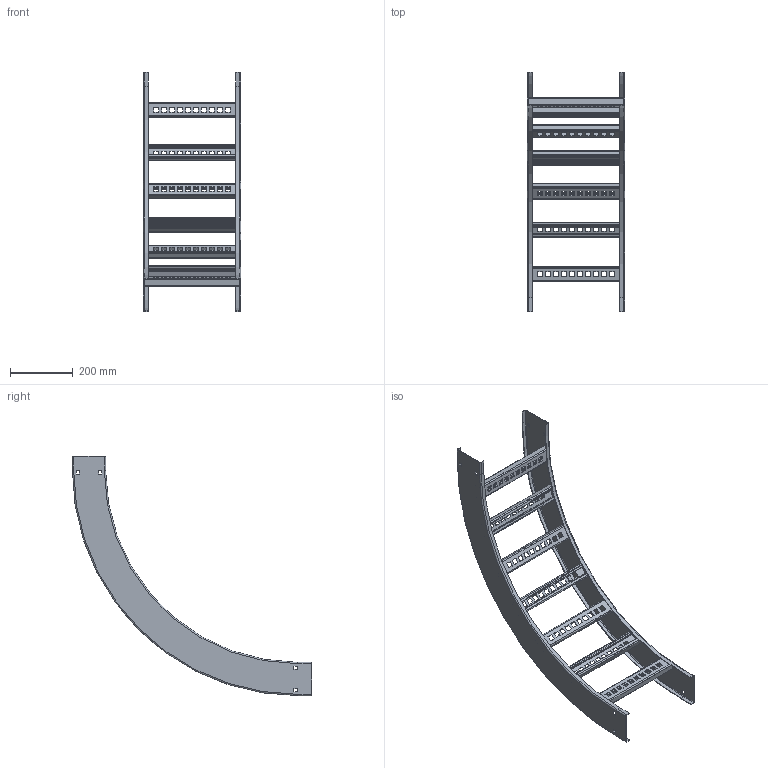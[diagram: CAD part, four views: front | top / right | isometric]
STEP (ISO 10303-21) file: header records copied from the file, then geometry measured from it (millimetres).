
FILE_DESCRIPTION((''),'2;1');
FILE_NAME('AUF412VVO9024_ASM','2010-02-01T',('erouzier'),(''),'PRO/ENGINEER BY PARAMETRIC TECHNOLOGY CORPORATION, 2008510','PRO/ENGINEER BY PARAMETRIC TECHNOLOGY CORPORATION, 2008510','');
FILE_SCHEMA(('CONFIG_CONTROL_DESIGN'));
Length unit declared in the file: inch
Products named in the file (3): CDS001416_4_90_24; CDS002159L12-P; AUF412VVO9024_ASM
Assembly tree (9 placements, depth 2):
  AUF412VVO9024_ASM
    CDS001416_4_90_24  x2
    CDS002159L12-P  x7
Bounding box: 308.91 x 759.64 x 759.64 mm (x, y, z)
Volume: 881638.6 mm3; surface area: 1074474.6 mm2
Topology: 9 solids, 9 shells, 886 faces, 2540 edges, 1672 vertices
Faces by surface type: plane 497, cylinder 381, torus 8
Entity records: 5504 total; most frequent: DIRECTION 950, CARTESIAN_POINT 936, ORIENTED_EDGE 920, EDGE_CURVE 460, VECTOR 330, LINE 330, AXIS2_PLACEMENT_3D 310, VERTEX_POINT 296
